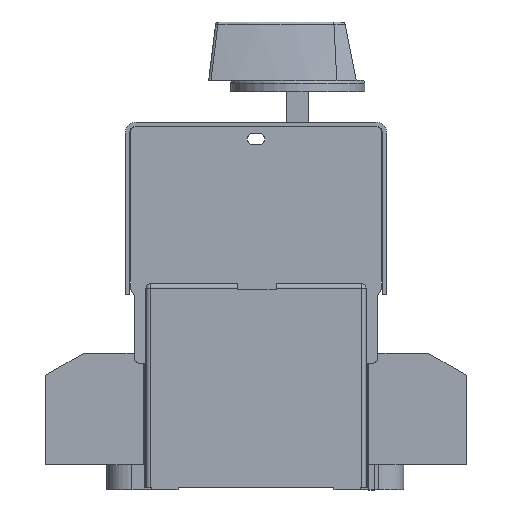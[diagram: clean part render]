
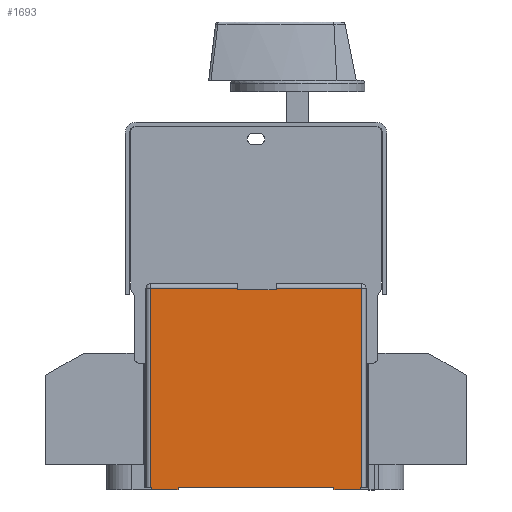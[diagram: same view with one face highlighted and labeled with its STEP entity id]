
A CAD part, left-side view. The second image highlights one B-rep face of the part: STEP entity #1693.
In plain terms, the highlighted planar face has unit normal (-1, 0, 0).
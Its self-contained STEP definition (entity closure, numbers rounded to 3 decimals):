
#1693=ADVANCED_FACE('',(#3642),#2864,.F.);
#2864=PLANE('',#23612);
#3642=FACE_OUTER_BOUND('',#4746,.T.);
#4746=EDGE_LOOP('',(#6695,#6696,#6697,#6698,#6699,#6700,#6701,#6702,#6703,
#6704,#6705,#6706,#6707,#6708,#6709,#6710));
#6695=ORIENTED_EDGE('',*,*,#15453,.F.);
#6696=ORIENTED_EDGE('',*,*,#15454,.T.);
#6697=ORIENTED_EDGE('',*,*,#15455,.T.);
#6698=ORIENTED_EDGE('',*,*,#15234,.F.);
#6699=ORIENTED_EDGE('',*,*,#15456,.T.);
#6700=ORIENTED_EDGE('',*,*,#15457,.T.);
#6701=ORIENTED_EDGE('',*,*,#15451,.T.);
#6702=ORIENTED_EDGE('',*,*,#15337,.T.);
#6703=ORIENTED_EDGE('',*,*,#15097,.F.);
#6704=ORIENTED_EDGE('',*,*,#15458,.F.);
#6705=ORIENTED_EDGE('',*,*,#15459,.T.);
#6706=ORIENTED_EDGE('',*,*,#15243,.T.);
#6707=ORIENTED_EDGE('',*,*,#15460,.F.);
#6708=ORIENTED_EDGE('',*,*,#15461,.F.);
#6709=ORIENTED_EDGE('',*,*,#15113,.T.);
#6710=ORIENTED_EDGE('',*,*,#15349,.T.);
#12894=VERTEX_POINT('',#31854);
#12895=VERTEX_POINT('',#31856);
#12908=VERTEX_POINT('',#31887);
#12909=VERTEX_POINT('',#31889);
#13008=VERTEX_POINT('',#32137);
#13010=VERTEX_POINT('',#32141);
#13017=VERTEX_POINT('',#32159);
#13018=VERTEX_POINT('',#32161);
#13097=VERTEX_POINT('',#32348);
#13105=VERTEX_POINT('',#32370);
#13168=VERTEX_POINT('',#32568);
#13169=VERTEX_POINT('',#32572);
#13170=VERTEX_POINT('',#32574);
#13171=VERTEX_POINT('',#32577);
#13172=VERTEX_POINT('',#32580);
#13173=VERTEX_POINT('',#32583);
#15097=EDGE_CURVE('',#12894,#12895,#18449,.T.);
#15113=EDGE_CURVE('',#12909,#12908,#18464,.T.);
#15234=EDGE_CURVE('',#13010,#13008,#18572,.T.);
#15243=EDGE_CURVE('',#13018,#13017,#18581,.T.);
#15337=EDGE_CURVE('',#13097,#12895,#18654,.T.);
#15349=EDGE_CURVE('',#12908,#13105,#18662,.T.);
#15451=EDGE_CURVE('',#13168,#13097,#18750,.T.);
#15453=EDGE_CURVE('',#13169,#13105,#18751,.T.);
#15454=EDGE_CURVE('',#13169,#13170,#18752,.T.);
#15455=EDGE_CURVE('',#13170,#13008,#18753,.T.);
#15456=EDGE_CURVE('',#13010,#13171,#18754,.T.);
#15457=EDGE_CURVE('',#13171,#13168,#18755,.T.);
#15458=EDGE_CURVE('',#13172,#12894,#18756,.T.);
#15459=EDGE_CURVE('',#13172,#13018,#18757,.T.);
#15460=EDGE_CURVE('',#13173,#13017,#18758,.T.);
#15461=EDGE_CURVE('',#12909,#13173,#18759,.T.);
#18449=LINE('',#31855,#20988);
#18464=LINE('',#31888,#21003);
#18572=LINE('',#32142,#21111);
#18581=LINE('',#32160,#21120);
#18654=LINE('',#32347,#21193);
#18662=LINE('',#32371,#21201);
#18750=LINE('',#32567,#21289);
#18751=LINE('',#32571,#21290);
#18752=LINE('',#32573,#21291);
#18753=LINE('',#32575,#21292);
#18754=LINE('',#32576,#21293);
#18755=LINE('',#32578,#21294);
#18756=LINE('',#32579,#21295);
#18757=LINE('',#32581,#21296);
#18758=LINE('',#32582,#21297);
#18759=LINE('',#32584,#21298);
#20988=VECTOR('',#25501,1.);
#21003=VECTOR('',#25524,1.);
#21111=VECTOR('',#25704,1.);
#21120=VECTOR('',#25717,1.);
#21193=VECTOR('',#25860,1.);
#21201=VECTOR('',#25882,1.);
#21289=VECTOR('',#26062,1.);
#21290=VECTOR('',#26067,1.);
#21291=VECTOR('',#26068,1.);
#21292=VECTOR('',#26069,1.);
#21293=VECTOR('',#26070,1.);
#21294=VECTOR('',#26071,1.);
#21295=VECTOR('',#26072,1.);
#21296=VECTOR('',#26073,1.);
#21297=VECTOR('',#26074,1.);
#21298=VECTOR('',#26075,1.);
#23612=AXIS2_PLACEMENT_3D('',#32585,#26076,#26077);
#25501=DIRECTION('',(0.,0.,1.));
#25524=DIRECTION('',(0.,0.,1.));
#25704=DIRECTION('',(0.,-1.,0.));
#25717=DIRECTION('',(0.,-1.,0.));
#25860=DIRECTION('',(0.,-1.,0.));
#25882=DIRECTION('',(0.,-1.,0.));
#26062=DIRECTION('',(0.,0.,-1.));
#26067=DIRECTION('',(0.,0.,-1.));
#26068=DIRECTION('',(0.,1.,0.));
#26069=DIRECTION('',(0.,0.,-1.));
#26070=DIRECTION('',(0.,0.,1.));
#26071=DIRECTION('',(0.,1.,0.));
#26072=DIRECTION('',(0.,1.,0.));
#26073=DIRECTION('',(0.,0.,1.));
#26074=DIRECTION('',(0.,0.,1.));
#26075=DIRECTION('',(0.,1.,0.));
#26076=DIRECTION('',(1.,0.,0.));
#26077=DIRECTION('',(0.,0.,-1.));
#31854=CARTESIAN_POINT('',(-69.,12.765,-4.9));
#31855=CARTESIAN_POINT('',(-69.,12.765,-5.9));
#31856=CARTESIAN_POINT('',(-69.,12.765,-3.9));
#31887=CARTESIAN_POINT('',(-69.,-62.235,-3.9));
#31888=CARTESIAN_POINT('',(-69.,-62.235,-5.9));
#31889=CARTESIAN_POINT('',(-69.,-62.235,-4.9));
#32137=CARTESIAN_POINT('',(-69.,-31.985,67.));
#32141=CARTESIAN_POINT('',(-69.,-17.985,67.));
#32142=CARTESIAN_POINT('',(-69.,12.765,67.));
#32159=CARTESIAN_POINT('',(-69.,-52.735,-3.9));
#32160=CARTESIAN_POINT('',(-69.,-62.235,-3.9));
#32161=CARTESIAN_POINT('',(-69.,3.265,-3.9));
#32347=CARTESIAN_POINT('',(-69.,-62.235,-3.9));
#32348=CARTESIAN_POINT('',(-69.,13.265,-3.9));
#32370=CARTESIAN_POINT('',(-69.,-62.735,-3.9));
#32371=CARTESIAN_POINT('',(-69.,-62.235,-3.9));
#32567=CARTESIAN_POINT('',(-69.,13.265,69.1));
#32568=CARTESIAN_POINT('',(-69.,13.265,67.6));
#32571=CARTESIAN_POINT('',(-69.,-62.735,69.1));
#32572=CARTESIAN_POINT('',(-69.,-62.735,67.6));
#32573=CARTESIAN_POINT('',(-69.,13.265,67.6));
#32574=CARTESIAN_POINT('',(-69.,-31.985,67.6));
#32575=CARTESIAN_POINT('',(-69.,-31.985,69.1));
#32576=CARTESIAN_POINT('',(-69.,-17.985,69.1));
#32577=CARTESIAN_POINT('',(-69.,-17.985,67.6));
#32578=CARTESIAN_POINT('',(-69.,13.265,67.6));
#32579=CARTESIAN_POINT('',(-69.,3.265,-4.9));
#32580=CARTESIAN_POINT('',(-69.,3.265,-4.9));
#32581=CARTESIAN_POINT('',(-69.,3.265,-5.9));
#32582=CARTESIAN_POINT('',(-69.,-52.735,-5.9));
#32583=CARTESIAN_POINT('',(-69.,-52.735,-4.9));
#32584=CARTESIAN_POINT('',(-69.,-62.235,-4.9));
#32585=CARTESIAN_POINT('',(-69.,-62.235,69.1));
